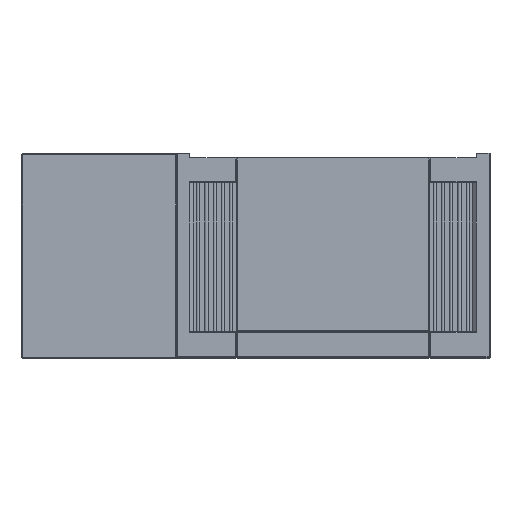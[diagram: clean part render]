
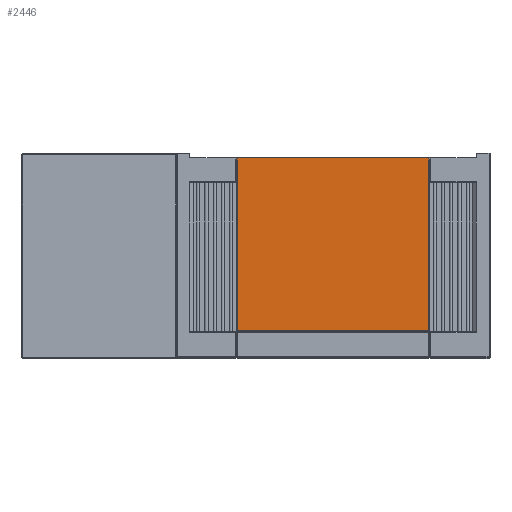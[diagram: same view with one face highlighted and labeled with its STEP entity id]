
A CAD part, top view. The second image highlights one B-rep face of the part: STEP entity #2446.
In plain terms, the highlighted planar face has unit normal (0, 0, 1).
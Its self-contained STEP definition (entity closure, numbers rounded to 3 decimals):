
#2446 = ADVANCED_FACE( '', ( #6109 ), #6110, .T. );
#6109 = FACE_OUTER_BOUND( '', #11367, .T. );
#6110 = PLANE( '', #11368 );
#11367 = EDGE_LOOP( '', ( #18867, #18868, #18869, #18870 ) );
#11368 = AXIS2_PLACEMENT_3D( '', #18871, #18872, #18873 );
#18867 = ORIENTED_EDGE( '', *, *, #34800, .T. );
#18868 = ORIENTED_EDGE( '', *, *, #34801, .T. );
#18869 = ORIENTED_EDGE( '', *, *, #34802, .F. );
#18870 = ORIENTED_EDGE( '', *, *, #34803, .T. );
#18871 = CARTESIAN_POINT( '', ( -293., -15., 1752. ) );
#18872 = DIRECTION( '', ( 0., 0., 1. ) );
#18873 = DIRECTION( '', ( 1., 0., 0. ) );
#34800 = EDGE_CURVE( '', #41985, #41986, #41987, .T. );
#34801 = EDGE_CURVE( '', #41986, #41988, #41989, .T. );
#34802 = EDGE_CURVE( '', #41990, #41988, #41991, .T. );
#34803 = EDGE_CURVE( '', #41990, #41985, #41992, .T. );
#41985 = VERTEX_POINT( '', #53153 );
#41986 = VERTEX_POINT( '', #53154 );
#41987 = LINE( '', #53155, #53156 );
#41988 = VERTEX_POINT( '', #53157 );
#41989 = LINE( '', #53158, #53159 );
#41990 = VERTEX_POINT( '', #53160 );
#41991 = LINE( '', #53161, #53162 );
#41992 = LINE( '', #53163, #53164 );
#53153 = CARTESIAN_POINT( '', ( -290., -537.183, 1752. ) );
#53154 = CARTESIAN_POINT( '', ( 290., -537.183, 1752. ) );
#53155 = CARTESIAN_POINT( '', ( -293., -537.183, 1752. ) );
#53156 = VECTOR( '', #67340, 1000. );
#53157 = CARTESIAN_POINT( '', ( 290., -15., 1752. ) );
#53158 = CARTESIAN_POINT( '', ( 290., -15., 1752. ) );
#53159 = VECTOR( '', #67341, 1000. );
#53160 = CARTESIAN_POINT( '', ( -290., -15., 1752. ) );
#53161 = CARTESIAN_POINT( '', ( -293., -15., 1752. ) );
#53162 = VECTOR( '', #67342, 1000. );
#53163 = CARTESIAN_POINT( '', ( -290., -15., 1752. ) );
#53164 = VECTOR( '', #67343, 1000. );
#67340 = DIRECTION( '', ( 1., 0., 0. ) );
#67341 = DIRECTION( '', ( 0., 1., 0. ) );
#67342 = DIRECTION( '', ( 1., 0., 0. ) );
#67343 = DIRECTION( '', ( 0., -1., 0. ) );
